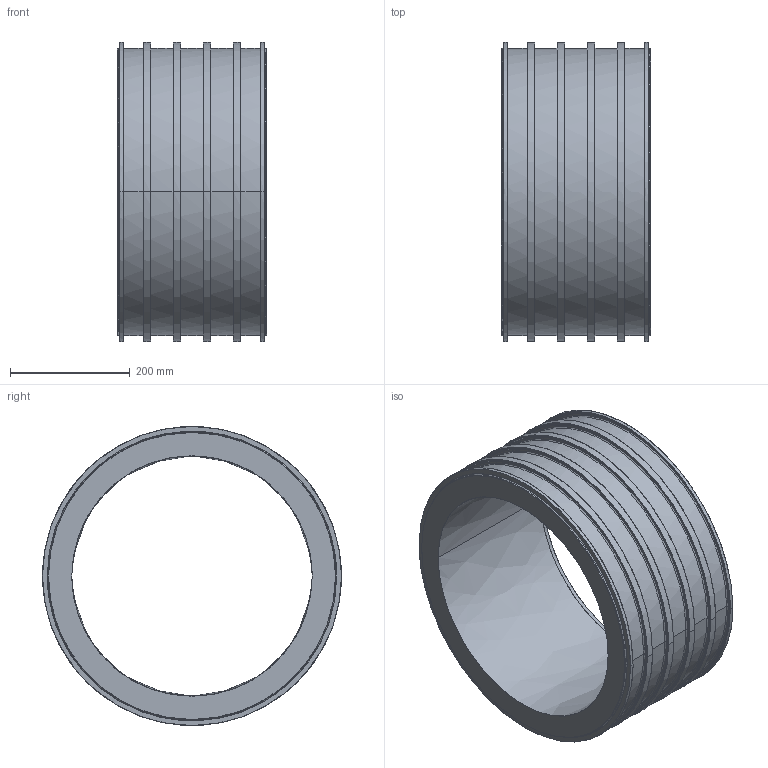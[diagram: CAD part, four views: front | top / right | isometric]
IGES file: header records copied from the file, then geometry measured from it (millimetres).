
Start section:  PTC IGES file: asfl_d355.igs
Global section: file name: asfl_d355.igs; native system: Pro/ENGINEER by Parametric Technology Corporation; preprocessor: 2011490; author: mtunjic; organization: Unknown; date: 20130730.084015; units: millimetre
Bounding box: 250 x 500 x 500 mm (x, y, z)
Surface area: 1042509.1 mm2 (no closed solid volume)
Topology: 0 solids, 0 shells, 138 faces, 552 edges, 552 vertices
Faces by surface type: bspline 138
